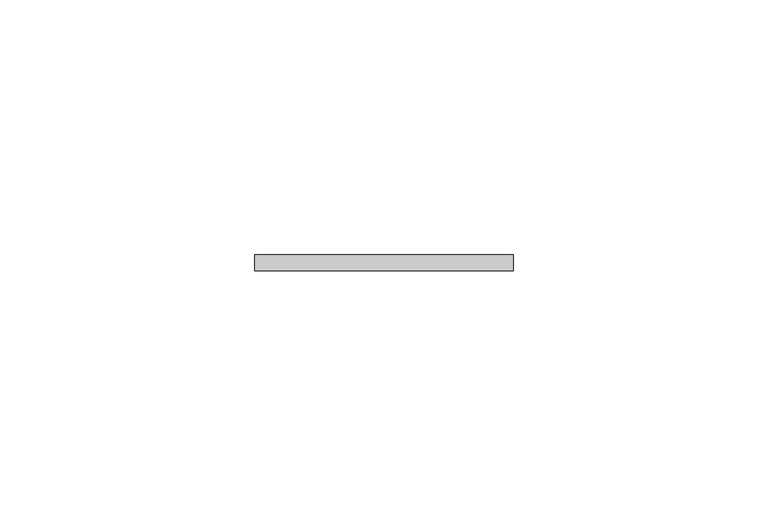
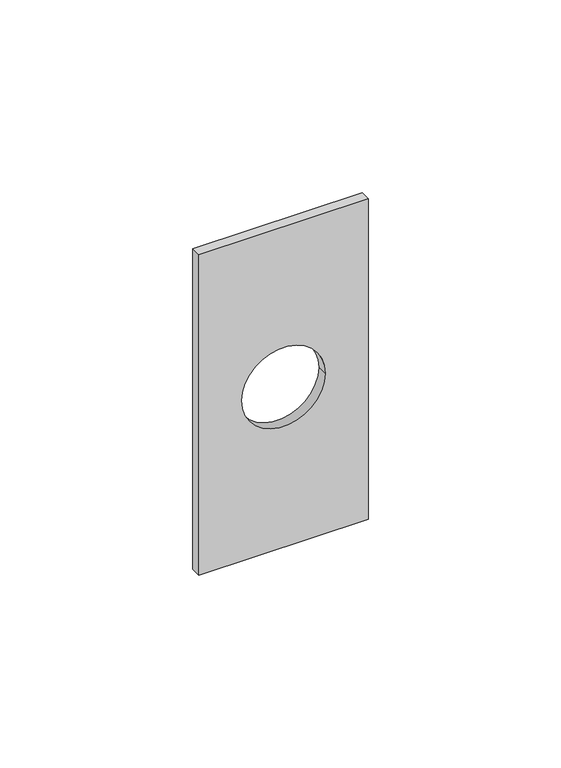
"""IFC4 building model written with IfcOpenShell, lengths in millimetres: proxy geometry, Accessory-Wiremold-Receptacle_Cover : 30TP-A."""

from ifc_helpers import new_model, si_unit, point, frame, frame_2d, origin, place, context, project, spatial, polyline, circle_curve, trimmed, segment, composite_curve, outline, extrude, source, transform, mapped, element, save


def electrical_fixtures_63e19a40(model_context):
    return source(origin(), model_context, "Body", "SweptSolid", [
        extrude(outline(polyline([(319.0875, 25.4), (319.0875, -25.4), (217.4875, -25.4), (217.4875, 25.4), (319.0875, 25.4)]), holes=[composite_curve([segment(trimmed(circle_curve(frame_2d((268.2875, 0.0)), 12.5), [point((268.2875, -12.5))], [point((268.2875, 12.5))], True, "CARTESIAN"), True, "CONTINUOUS"), segment(trimmed(circle_curve(frame_2d((268.2875, 0.0)), 12.5), [point((268.2875, 12.5))], [point((268.2875, -12.5))], True, "CARTESIAN"), True, "CONTINUOUS")], self_intersect=False)]), frame((0.0, -1.5875, 0.0), z_axis=(0.0, 1.0, 0.0), x_axis=(0.0, 0.0, 1.0)), (0.0, 0.0, 1.0), 3.175),
    ])


if __name__ == "__main__":
    model = new_model("IFC4")
    model_context = context("Model", 3, world=origin())
    ifc_project = project(units=[si_unit("LENGTHUNIT", "METRE", prefix="MILLI")], contexts=[model_context])
    site = spatial("IfcSite", under=ifc_project)
    building = spatial("IfcBuilding", under=site)
    placement = place(None, origin())
    electrical_fixtures_shape = electrical_fixtures_63e19a40(model_context)
    element("IfcBuildingElementProxy", 1, Name="Accessory-Wiremold-Receptacle_Cover : 30TP-A", ObjectType="Accessory-Wiremold-Receptacle_Cover : 30TP-A", at=placement, inside=building, context=model_context, shape_type="MappedRepresentation", body=[
        mapped(electrical_fixtures_shape, transform((0.0, 0.0, 0.0), x_axis=(1.0, 0.0, 0.0), y_axis=(0.0, 1.0, 0.0), z_axis=(0.0, 0.0, 1.0))),
    ])
    save(model, "model.ifc")
